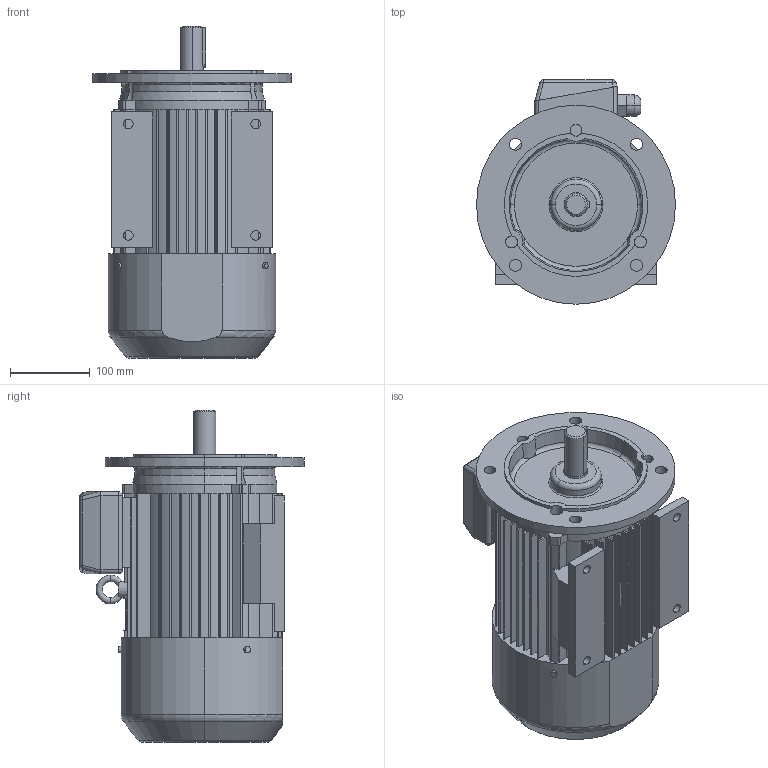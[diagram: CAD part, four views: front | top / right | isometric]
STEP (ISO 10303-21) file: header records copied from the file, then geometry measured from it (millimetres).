
FILE_DESCRIPTION (( 'STEP AP203' ), '1' );
FILE_NAME ('3SIEL100L4A,4B.STEP', '2016-02-08T12:12:27', ( 'Indukta' ), ( 'Celma Indukta S.A.' ), 'SwSTEP 2.0', 'SolidWorks 2003064', '' );
FILE_SCHEMA (( 'CONFIG_CONTROL_DESIGN' ));
Length unit declared in the file: millimetre
Products named in the file (1): 3SIEL100L4A,4B
Bounding box: 250 x 282 x 417 mm (x, y, z)
Volume: 11379376.7 mm3; surface area: 569738.6 mm2
Topology: 1 solids, 1 shells, 615 faces, 1689 edges, 1078 vertices
Faces by surface type: plane 299, cylinder 189, bspline 78, torus 23, cone 18, sphere 8
Entity records: 26189 total; most frequent: CARTESIAN_POINT 10713, ORIENTED_EDGE 3362, DIRECTION 3055, EDGE_CURVE 1681, VERTEX_POINT 1078, AXIS2_PLACEMENT_3D 1056, LINE 943, VECTOR 943
